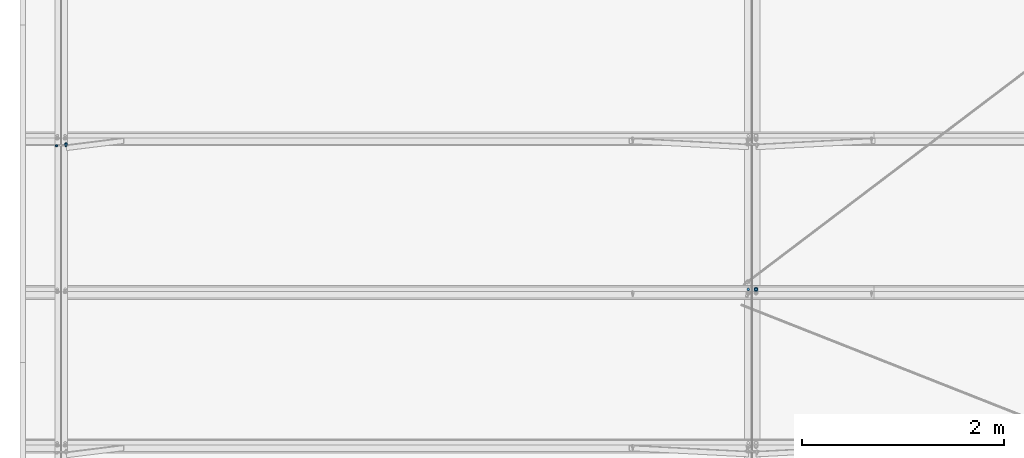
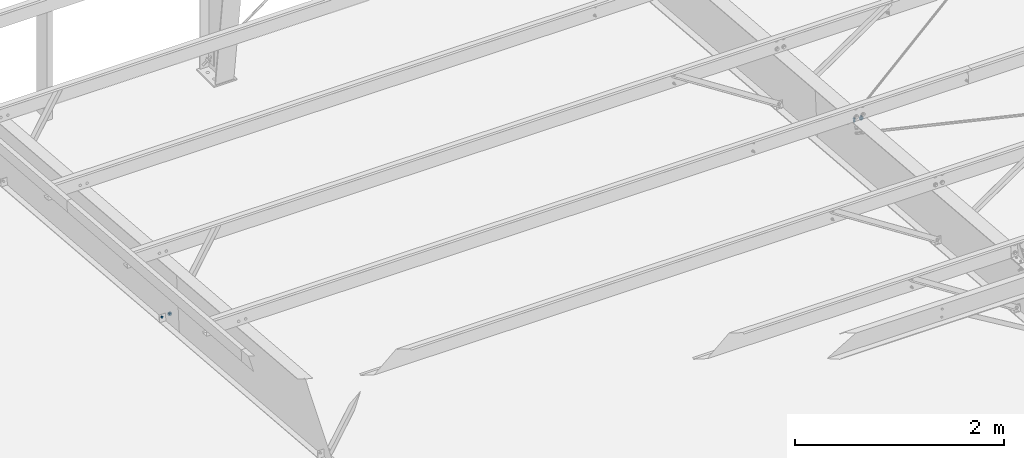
# One storey, part 144 of 185: 5 mechanical fasteners, 3 elements without a shape of their own.
"""IFC2X3 building model written with IfcOpenShell, lengths in millimetres."""

import ifcopenshell
import ifcopenshell.guid

model = None  # the IFC model being written
_history = None  # IfcOwnerHistory: only IFC2X3 demands one
_inside = {}  # id of a spatial element -> (the spatial element, [elements in it])
_under = {}  # id of a project, library or spatial element -> (it, [spatial elements below it])
_declared = {}  # id of a project -> (the project, [libraries it declares])
_typed = {}  # id of a type object -> (the type object, [elements of that type])
_made_of = {}  # id of a material, layer set ... -> (it, [elements and type objects made of it])


def new_model(schema):
    """Start an empty IFC model of exactly this schema.

    Asked for "IFC4X3", IfcOpenShell would pick the latest addendum, in which some entities
    have other attributes; the version numbers below select the first issue.
    IFC2X3 requires an IfcOwnerHistory on every rooted entity: one is made here for all.
    """
    global model, _history
    if schema == "IFC4X3":
        model = ifcopenshell.file(schema_version=(4, 3, 0, 0))
    else:
        model = ifcopenshell.file(schema=schema)
    _inside.clear()
    _under.clear()
    _declared.clear()
    _typed.clear()
    _made_of.clear()
    _history = None
    if model.schema == "IFC2X3":
        org = make("IfcOrganization", Name="unknown")
        user = make(
            "IfcPersonAndOrganization",
            ThePerson=make("IfcPerson", FamilyName="unknown"),
            TheOrganization=org,
        )
        app = make(
            "IfcApplication",
            ApplicationDeveloper=org,
            Version="unknown",
            ApplicationFullName="unknown",
            ApplicationIdentifier="unknown",
        )
        _history = make(
            "IfcOwnerHistory",
            OwningUser=user,
            OwningApplication=app,
            ChangeAction="ADDED",
            CreationDate=0,
        )
    return model


def make(cls, **values):
    """One entity of the class cls with the attributes given. An attribute that is None is left unset."""
    return model.create_entity(
        cls, **{name: value for name, value in values.items() if value is not None}
    )


def rooted(cls, **values):
    """An entity with a GlobalId (a new one), such as an element, a storey or a relation."""
    return make(cls, GlobalId=ifcopenshell.guid.new(), OwnerHistory=_history, **values)


def si_unit(unit_type, name, prefix=None):
    """IfcSIUnit, for example si_unit("LENGTHUNIT", "METRE", prefix="MILLI")."""
    return make("IfcSIUnit", UnitType=unit_type, Prefix=prefix, Name=name)


def assignment(units):
    """IfcUnitAssignment: the units of a project."""
    return None if units is None else make("IfcUnitAssignment", Units=units)


def point(xyz):
    """IfcCartesianPoint."""
    return None if xyz is None else make("IfcCartesianPoint", Coordinates=xyz)


def direction(xyz):
    """IfcDirection."""
    return None if xyz is None else make("IfcDirection", DirectionRatios=xyz)


def frame(location, z_axis=None, x_axis=None):
    """IfcAxis2Placement3D, a coordinate frame: its origin and axes. An axis left out is left unset."""
    return make(
        "IfcAxis2Placement3D",
        Location=point(location),
        Axis=direction(z_axis),
        RefDirection=direction(x_axis),
    )


def frame_2d(location, x_axis=None):
    """IfcAxis2Placement2D, a coordinate frame in the plane: its origin and x axis."""
    return make(
        "IfcAxis2Placement2D", Location=point(location), RefDirection=direction(x_axis)
    )


def origin_with_axes():
    """The frame at (0, 0, 0) with the z axis (0, 0, 1) and the x axis (1, 0, 0) written out."""
    return frame((0.0, 0.0, 0.0), z_axis=(0.0, 0.0, 1.0), x_axis=(1.0, 0.0, 0.0))


def origin_2d_with_axis():
    """The frame at (0, 0) in the plane with the x axis (1, 0) written out."""
    return frame_2d((0.0, 0.0), x_axis=(1.0, 0.0))


def place(relative_to, where):
    """IfcLocalPlacement: puts the frame where relative to a parent placement (None: the world)."""
    return make(
        "IfcLocalPlacement", PlacementRelTo=relative_to, RelativePlacement=where
    )


def context(
    kind, dimensions, precision=None, world=None, true_north=None, identifier=None
):
    """IfcGeometricRepresentationContext, for example the 3D "Model" context."""
    return make(
        "IfcGeometricRepresentationContext",
        ContextIdentifier=identifier,
        ContextType=kind,
        CoordinateSpaceDimension=dimensions,
        Precision=precision,
        WorldCoordinateSystem=world,
        TrueNorth=true_north,
    )


def subcontext(parent, identifier, kind, view, scale=None):
    """IfcGeometricRepresentationSubContext, for example "Body" below "Model"."""
    return make(
        "IfcGeometricRepresentationSubContext",
        ContextIdentifier=identifier,
        ContextType=kind,
        ParentContext=parent,
        TargetScale=scale,
        TargetView=view,
    )


def project(units=None, contexts=None):
    """IfcProject with its units and contexts."""
    return rooted(
        "IfcProject",
        Name="project",
        RepresentationContexts=contexts,
        UnitsInContext=assignment(units),
    )


def spatial(cls, under=None, at=None, **own):
    """A site, building, storey or space (cls), placed at a placement, below another one or the project."""
    s = rooted(cls, ObjectPlacement=at, **own)
    if under is not None:
        _under.setdefault(under.id(), (under, []))[1].append(s)
    return s


def polyline(points):
    """IfcPolyline through the points."""
    return make("IfcPolyline", Points=[point(p) for p in points])


def profile(cls, at=None, kind="AREA", **sizes):
    """A parametric profile (cls). Its sizes go by their IFC names, for example OverallWidth=200.0."""
    return make(cls, ProfileType=kind, Position=at, **sizes)


def circle(**sizes):
    """IfcCircleProfileDef."""
    return profile("IfcCircleProfileDef", **sizes)


def outline(outer, holes=None, kind="AREA"):
    """IfcArbitraryClosedProfileDef: a profile drawn as a closed curve; with holes, ...WithVoids."""
    if holes is None:
        return make("IfcArbitraryClosedProfileDef", ProfileType=kind, OuterCurve=outer)
    return make(
        "IfcArbitraryProfileDefWithVoids",
        ProfileType=kind,
        OuterCurve=outer,
        InnerCurves=holes,
    )


def extrude(swept, where, along, depth):
    """IfcExtrudedAreaSolid: the profile swept, set in the frame where, extruded along a direction by depth."""
    return make(
        "IfcExtrudedAreaSolid",
        SweptArea=swept,
        Position=where,
        ExtrudedDirection=direction(along),
        Depth=depth,
    )


def shape(context_of_items, identifier, shape_type, items):
    """IfcShapeRepresentation: the items that make up one representation, for example the "Body"."""
    return make(
        "IfcShapeRepresentation",
        ContextOfItems=context_of_items,
        RepresentationIdentifier=identifier,
        RepresentationType=shape_type,
        Items=items,
    )


def source(mapping_origin, context_of_items, identifier, shape_type, items):
    """IfcRepresentationMap: a shape defined once, which mapped items show again and again."""
    return make(
        "IfcRepresentationMap",
        MappingOrigin=mapping_origin,
        MappedRepresentation=shape(context_of_items, identifier, shape_type, items),
    )


def transform(
    local_origin,
    x_axis=None,
    y_axis=None,
    z_axis=None,
    scale=None,
    scale2=None,
    scale3=None,
    uniform=True,
):
    """IfcCartesianTransformationOperator3D, or its non-uniform kind. x_axis, y_axis, z_axis: its Axis1, 2, 3."""
    if uniform:
        return make(
            "IfcCartesianTransformationOperator3D",
            Axis1=direction(x_axis),
            Axis2=direction(y_axis),
            LocalOrigin=point(local_origin),
            Scale=scale,
            Axis3=direction(z_axis),
        )
    return make(
        "IfcCartesianTransformationOperator3DnonUniform",
        Axis1=direction(x_axis),
        Axis2=direction(y_axis),
        LocalOrigin=point(local_origin),
        Scale=scale,
        Axis3=direction(z_axis),
        Scale2=scale2,
        Scale3=scale3,
    )


def mapped(mapping_source, mapping_target):
    """IfcMappedItem: shows the shape of a source again, moved by a transform."""
    return make(
        "IfcMappedItem", MappingSource=mapping_source, MappingTarget=mapping_target
    )


def material(Name=None, Category=None):
    """IfcMaterial."""
    return make("IfcMaterial", Name=Name, Category=Category)


def made_of(thing, what):
    """Note that an element or type object is made of a material, layer set ...; save() writes the relation."""
    if what is not None:
        _made_of.setdefault(what.id(), (what, []))[1].append(thing)
    return thing


def type_object(cls, material=None, **own):
    """A type object (cls), such as IfcWallType, which elements share."""
    return made_of(rooted(cls, **own), material)


def element(
    cls,
    number,
    at=None,
    inside=None,
    cuts=None,
    type_object=None,
    material=None,
    context=None,
    identifier="Body",
    shape_type=None,
    held_by="IfcProductDefinitionShape",
    body=None,
    shapes=None,
    **own,
):
    """One element of the class cls, such as IfcWall. Its Tag is "e" and its number.

    at: its placement. inside: the storey or other place that contains it. cuts: it is an
    opening in that element (IfcRelVoidsElement). A single representation is given by context,
    identifier, shape_type and body (its items); several are given by shapes. held_by: the class
    of the entity that holds the representations. save() writes the other relations.
    """
    e = rooted(cls, Tag="e%d" % number, ObjectPlacement=at, **own)
    if body is not None:
        shapes = [shape(context, identifier, shape_type, body)]
    if shapes is not None:
        e.Representation = make(held_by, Representations=shapes)
    if inside is not None:
        _inside.setdefault(inside.id(), (inside, []))[1].append(e)
    if cuts is not None:
        rooted(
            "IfcRelVoidsElement", RelatingBuildingElement=cuts, RelatedOpeningElement=e
        )
    if type_object is not None:
        _typed.setdefault(type_object.id(), (type_object, []))[1].append(e)
    return made_of(e, material)


def aggregate(whole, parts):
    """IfcRelAggregates: a whole, such as a stair, and the parts it consists of."""
    return rooted("IfcRelAggregates", RelatingObject=whole, RelatedObjects=parts)


def save(model, path):
    """Write the relations noted so far, then the file.

    IfcRelAggregates (storeys below a building ...), IfcRelContainedInSpatialStructure (elements
    in a storey), IfcRelDefinesByType, IfcRelAssociatesMaterial and IfcRelDeclares: one each for
    every whole, place, type object, material and project.
    """
    for whole, parts in _under.values():
        aggregate(whole, parts)
    for where, things in _inside.values():
        rooted(
            "IfcRelContainedInSpatialStructure",
            RelatedElements=things,
            RelatingStructure=where,
        )
    for kind, things in _typed.values():
        rooted("IfcRelDefinesByType", RelatedObjects=things, RelatingType=kind)
    for what, things in _made_of.values():
        rooted("IfcRelAssociatesMaterial", RelatedObjects=things, RelatingMaterial=what)
    for by, libraries in _declared.values():
        rooted("IfcRelDeclares", RelatingContext=by, RelatedDefinitions=libraries)
    model.write(path)


model = new_model("IFC2X3")

# Units and contexts
model_context = context("Model", 3, precision=1e-05, world=origin_with_axes())
body_context = subcontext(model_context, "Body", "Model", "MODEL_VIEW")
ifc_project = project(units=[si_unit("LENGTHUNIT", "METRE", prefix="MILLI"), si_unit("AREAUNIT", "SQUARE_METRE"), si_unit("VOLUMEUNIT", "CUBIC_METRE"), si_unit("MASSUNIT", "GRAM", prefix="KILO"), si_unit("TIMEUNIT", "SECOND"), si_unit("PLANEANGLEUNIT", "RADIAN"), si_unit("SOLIDANGLEUNIT", "STERADIAN"), si_unit("THERMODYNAMICTEMPERATUREUNIT", "DEGREE_CELSIUS"), si_unit("LUMINOUSINTENSITYUNIT", "LUMEN")], contexts=[model_context])

# Site, building, storey
site_placement = place(None, origin_with_axes())
site = spatial("IfcSite", under=ifc_project, at=site_placement, Name="Undefined", CompositionType="ELEMENT")
building_placement = place(site_placement, origin_with_axes())
building = spatial("IfcBuilding", under=site, at=building_placement, Name="Undefined", CompositionType="ELEMENT")
storey_placement = place(building_placement, origin_with_axes())
storey = spatial("IfcBuildingStorey", under=building, at=storey_placement, Name="Undefined", CompositionType="ELEMENT", Elevation=0.0)

# Assembly, mechanical fastener
assembly_1_placement = place(storey_placement, origin_with_axes())
assembly_1 = element("IfcElementAssembly", 1, at=assembly_1_placement, inside=storey, Name="Steel Assembly", AssemblyPlace="NOTDEFINED", PredefinedType="RIGID_FRAME")
ifc_material_1 = material(Name="Undefined")
discrete_accessory_type = type_object("IfcDiscreteAccessoryType", Name="Bolt assembly")
shared_shape_1 = source(origin_with_axes(), body_context, "Body", "SweptSolid", [
    extrude(circle(Radius=7.14374971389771, at=origin_2d_with_axis()), frame((0.0, -1.59000001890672, 0.0), z_axis=(0.0, 1.0, 0.0), x_axis=(1.0, 0.0, 0.0)), (0.0, 0.0, 1.0), 1.7),
    extrude(outline(polyline([(10.9985221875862, 0.0), (5.4992610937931, 9.52499961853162), (-5.4992610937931, 9.52499961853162), (-10.9985221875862, 0.0), (-5.4992610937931, -9.52499961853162), (5.4992610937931, -9.52499961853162), (10.9985221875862, 0.0)])), frame((0.0, -15.0837496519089, 0.0), z_axis=(0.0, 1.0, 0.0), x_axis=(1.0, 0.0, 0.0)), (0.0, 0.0, 1.0), 9.5),
    extrude(circle(Radius=6.34999990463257, at=origin_2d_with_axis()), frame((0.0, -5.5587500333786, 0.0), z_axis=(0.0, 1.0, 0.0), x_axis=(1.0, 0.0, 0.0)), (0.0, 0.0, 1.0), 38.1),
    extrude(circle(Radius=13.4937496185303, at=origin_2d_with_axis()), frame((0.0, -5.5587500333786, 0.0), z_axis=(0.0, 1.0, 0.0), x_axis=(1.0, 0.0, 0.0)), (0.0, 0.0, 1.0), 4.0),
    extrude(circle(Radius=22.2250003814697, at=origin_2d_with_axis()), frame((0.0, 0.0, 0.0), z_axis=(0.0, 1.0, 0.0), x_axis=(1.0, 0.0, 0.0)), (0.0, 0.0, 1.0), 7.9),
    extrude(outline(polyline([(12.8316099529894, 0.0), (6.4158049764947, 11.1125001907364), (-6.4158049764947, 11.1125001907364), (-12.8316099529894, 0.0), (-6.4158049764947, -11.1125001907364), (6.4158049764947, -11.1125001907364), (12.8316099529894, 0.0)])), frame((0.0, 7.93750000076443, 0.0), z_axis=(0.0, 1.0, 0.0), x_axis=(1.0, 0.0, 0.0)), (0.0, 0.0, 1.0), 12.3),
])
mechanical_fastener_1_placement = place(assembly_1_placement, frame((453.111633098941, 20790.5686875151, 6167.88093927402), z_axis=(-0.832860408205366, 0.0459642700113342, 0.551571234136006), x_axis=(0.553483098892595, 0.0691652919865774, 0.829983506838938)))
mechanical_fastener_1 = element("IfcMechanicalFastener", 2, at=mechanical_fastener_1_placement, type_object=discrete_accessory_type, material=ifc_material_1, Name="Bolt assembly", NominalDiameter=12.6999998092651, NominalLength=38.0999984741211, context=body_context, shape_type="MappedRepresentation", body=[
    mapped(shared_shape_1, transform((0.0, 0.0, 0.0))),
])
aggregate(assembly_1, [mechanical_fastener_1])

# Assembly, mechanical fasteners
assembly_2_placement = place(storey_placement, origin_with_axes())
assembly_2 = element("IfcElementAssembly", 3, at=assembly_2_placement, inside=storey, Name="Steel Assembly", AssemblyPlace="NOTDEFINED", PredefinedType="RIGID_FRAME")
ifc_material_2 = material(Name="7990")
shared_shape_2 = source(origin_with_axes(), body_context, "Body", "SweptSolid", [
    extrude(circle(Radius=7.14374971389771, at=origin_2d_with_axis()), frame((0.0, -3.41600000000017, 0.0), z_axis=(0.0, 1.0, 0.0), x_axis=(1.0, 0.0, 0.0)), (0.0, 0.0, 1.0), 3.5),
    extrude(circle(Radius=11.4299998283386, at=origin_2d_with_axis()), frame((0.0, 0.0, 0.0), z_axis=(0.0, 1.0, 0.0), x_axis=(1.0, 0.0, 0.0)), (0.0, 0.0, 1.0), 4.2),
    extrude(outline(polyline([(12.171698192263, 0.0), (6.08584909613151, 10.5409998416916), (-6.08584909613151, 10.5409998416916), (-12.171698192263, 0.0), (-6.08584909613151, -10.5409998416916), (6.08584909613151, -10.5409998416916), (12.171698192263, 0.0)])), frame((0.0, 4.1909999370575, 0.0), z_axis=(0.0, 1.0, 0.0), x_axis=(1.0, 0.0, 0.0)), (0.0, 0.0, 1.0), 8.4),
])
mechanical_fastener_2_placement = place(assembly_2_placement, frame((360.241850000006, 20790.4995222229, 6167.05095576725), z_axis=(-0.921635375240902, 0.0322263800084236, 0.386716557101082), x_axis=(-0.388056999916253, -0.0765376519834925, -0.918451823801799)))
mechanical_fastener_2 = element("IfcMechanicalFastener", 4, at=mechanical_fastener_2_placement, type_object=discrete_accessory_type, material=ifc_material_2, Name="Bolt assembly", NominalDiameter=12.6999998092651, NominalLength=38.0999984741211, context=body_context, shape_type="MappedRepresentation", body=[
    mapped(shared_shape_2, transform((0.0, 0.0, 0.0))),
])
shared_shape_3 = source(origin_with_axes(), body_context, "Body", "SweptSolid", [
    extrude(circle(Radius=7.14374971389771, at=origin_2d_with_axis()), frame((0.0, 0.0, 0.0), z_axis=(0.0, 1.0, 0.0), x_axis=(1.0, 0.0, 0.0)), (0.0, 0.0, 1.0), 3.5),
    extrude(circle(Radius=11.4299998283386, at=origin_2d_with_axis()), frame((0.0, 3.41600000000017, 0.0), z_axis=(0.0, 1.0, 0.0), x_axis=(1.0, 0.0, 0.0)), (0.0, 0.0, 1.0), 4.2),
    extrude(outline(polyline([(12.171698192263, 0.0), (6.08584909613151, 10.5409998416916), (-6.08584909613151, 10.5409998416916), (-12.171698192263, 0.0), (-6.08584909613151, -10.5409998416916), (6.08584909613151, -10.5409998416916), (12.171698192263, 0.0)])), frame((0.0, 7.60699993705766, 0.0), z_axis=(0.0, 1.0, 0.0), x_axis=(1.0, 0.0, 0.0)), (0.0, 0.0, 1.0), 8.4),
])
mechanical_fastener_3_placement = place(assembly_2_placement, frame((452.558150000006, 20790.4995222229, 6167.05095576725), z_axis=(0.921635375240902, 0.0322263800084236, 0.386716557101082), x_axis=(0.388056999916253, -0.0765376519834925, -0.918451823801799)))
mechanical_fastener_3 = element("IfcMechanicalFastener", 5, at=mechanical_fastener_3_placement, type_object=discrete_accessory_type, material=ifc_material_2, Name="Bolt assembly", NominalDiameter=12.6999998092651, NominalLength=38.0999984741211, context=body_context, shape_type="MappedRepresentation", body=[
    mapped(shared_shape_3, transform((0.0, 0.0, 0.0))),
])
aggregate(assembly_2, [mechanical_fastener_3, mechanical_fastener_2])

assembly_3_placement = place(storey_placement, origin_with_axes())
assembly_3 = element("IfcElementAssembly", 6, at=assembly_3_placement, inside=storey, Name="Steel Assembly", AssemblyPlace="NOTDEFINED", PredefinedType="RIGID_FRAME")
shared_shape_4 = source(origin_with_axes(), body_context, "Body", "SweptSolid", [
    extrude(circle(Radius=7.14374971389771, at=origin_2d_with_axis()), frame((0.0, -0.0238014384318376, 0.0), z_axis=(0.0, 1.0, 0.0), x_axis=(1.0, 0.0, 0.0)), (0.0, 0.0, 1.0), 8.0),
    extrude(circle(Radius=7.14374971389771, at=origin_2d_with_axis()), frame((0.0, -3.08000006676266, 0.0), z_axis=(0.0, 1.0, 0.0), x_axis=(1.0, 0.0, 0.0)), (0.0, 0.0, 1.0), 3.2),
    extrude(circle(Radius=7.14374971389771, at=origin_2d_with_axis()), frame((0.0, -3.08000006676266, 0.0), z_axis=(0.0, 1.0, 0.0), x_axis=(1.0, 0.0, 0.0)), (0.0, 0.0, 1.0), 3.2),
    extrude(outline(polyline([(10.9985221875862, 0.0), (5.4992610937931, 9.52499961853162), (-5.4992610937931, 9.52499961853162), (-10.9985221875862, 0.0), (-5.4992610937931, -9.52499961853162), (5.4992610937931, -9.52499961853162), (10.9985221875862, 0.0)])), frame((0.0, -16.6737496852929, 0.0), z_axis=(0.0, 1.0, 0.0), x_axis=(1.0, 0.0, 0.0)), (0.0, 0.0, 1.0), 9.5),
    extrude(circle(Radius=6.34999990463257, at=origin_2d_with_axis()), frame((0.0, -7.14875006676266, 0.0), z_axis=(0.0, 1.0, 0.0), x_axis=(1.0, 0.0, 0.0)), (0.0, 0.0, 1.0), 38.1),
    extrude(circle(Radius=13.4937496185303, at=origin_2d_with_axis()), frame((0.0, -7.14875006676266, 0.0), z_axis=(0.0, 1.0, 0.0), x_axis=(1.0, 0.0, 0.0)), (0.0, 0.0, 1.0), 4.0),
    extrude(circle(Radius=22.2250003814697, at=origin_2d_with_axis()), frame((0.0, 7.95019856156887, 0.0), z_axis=(0.0, 1.0, 0.0), x_axis=(1.0, 0.0, 0.0)), (0.0, 0.0, 1.0), 7.9),
    extrude(outline(polyline([(12.8316099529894, 0.0), (6.4158049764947, 11.1125001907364), (-6.4158049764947, 11.1125001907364), (-12.8316099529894, 0.0), (-6.4158049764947, -11.1125001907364), (6.4158049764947, -11.1125001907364), (12.8316099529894, 0.0)])), frame((0.0, 15.8876985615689, 0.0), z_axis=(0.0, 1.0, 0.0), x_axis=(1.0, 0.0, 0.0)), (0.0, 0.0, 1.0), 12.3),
])
mechanical_fastener_4_placement = place(assembly_3_placement, frame((7277.1, 19364.3117456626, 6945.40302177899), z_axis=(-1.0, 0.0, 0.0), x_axis=(0.0, 0.996545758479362, -0.0830454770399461)))
mechanical_fastener_4 = element("IfcMechanicalFastener", 7, at=mechanical_fastener_4_placement, type_object=discrete_accessory_type, material=ifc_material_1, Name="Bolt assembly", NominalDiameter=12.6999998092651, NominalLength=38.0999984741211, context=body_context, shape_type="MappedRepresentation", body=[
    mapped(shared_shape_4, transform((0.0, 0.0, 0.0))),
])
shared_shape_5 = source(origin_with_axes(), body_context, "Body", "SweptSolid", [
    extrude(circle(Radius=7.14374971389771, at=origin_2d_with_axis()), frame((0.0, -0.0238014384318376, 0.0), z_axis=(0.0, 1.0, 0.0), x_axis=(1.0, 0.0, 0.0)), (0.0, 0.0, 1.0), 8.0),
    extrude(circle(Radius=7.14374971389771, at=origin_2d_with_axis()), frame((0.0, -3.08000006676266, 0.0), z_axis=(0.0, 1.0, 0.0), x_axis=(1.0, 0.0, 0.0)), (0.0, 0.0, 1.0), 3.2),
    extrude(circle(Radius=7.14374971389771, at=origin_2d_with_axis()), frame((0.0, -3.08000006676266, 0.0), z_axis=(0.0, 1.0, 0.0), x_axis=(1.0, 0.0, 0.0)), (0.0, 0.0, 1.0), 3.2),
    extrude(outline(polyline([(10.9985221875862, 0.0), (5.4992610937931, 9.52499961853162), (-5.4992610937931, 9.52499961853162), (-10.9985221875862, 0.0), (-5.4992610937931, -9.52499961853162), (5.4992610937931, -9.52499961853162), (10.9985221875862, 0.0)])), frame((0.0, -16.6737496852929, 0.0), z_axis=(0.0, 1.0, 0.0), x_axis=(1.0, 0.0, 0.0)), (0.0, 0.0, 1.0), 9.5),
    extrude(circle(Radius=6.34999990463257, at=origin_2d_with_axis()), frame((0.0, -7.14875006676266, 0.0), z_axis=(0.0, 1.0, 0.0), x_axis=(1.0, 0.0, 0.0)), (0.0, 0.0, 1.0), 38.1),
    extrude(circle(Radius=13.4937496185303, at=origin_2d_with_axis()), frame((0.0, -7.14875006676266, 0.0), z_axis=(0.0, 1.0, 0.0), x_axis=(1.0, 0.0, 0.0)), (0.0, 0.0, 1.0), 4.0),
    extrude(outline(polyline([(12.8316099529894, 0.0), (6.4158049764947, 11.1125001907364), (-6.4158049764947, 11.1125001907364), (-12.8316099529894, 0.0), (-6.4158049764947, -11.1125001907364), (6.4158049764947, -11.1125001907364), (12.8316099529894, 0.0)])), frame((0.0, 7.95019856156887, 0.0), z_axis=(0.0, 1.0, 0.0), x_axis=(1.0, 0.0, 0.0)), (0.0, 0.0, 1.0), 12.3),
])
mechanical_fastener_5_placement = place(assembly_3_placement, frame((7200.9, 19364.3117456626, 6945.40302177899), z_axis=(-1.0, 0.0, 0.0), x_axis=(0.0, 0.996545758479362, -0.0830454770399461)))
mechanical_fastener_5 = element("IfcMechanicalFastener", 8, at=mechanical_fastener_5_placement, type_object=discrete_accessory_type, material=ifc_material_1, Name="Bolt assembly", NominalDiameter=12.6999998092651, NominalLength=38.0999984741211, context=body_context, shape_type="MappedRepresentation", body=[
    mapped(shared_shape_5, transform((0.0, 0.0, 0.0))),
])
aggregate(assembly_3, [mechanical_fastener_4, mechanical_fastener_5])

save(model, "model.ifc")
